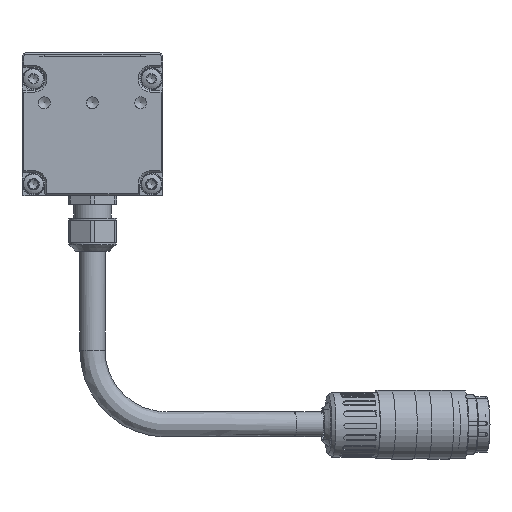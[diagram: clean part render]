
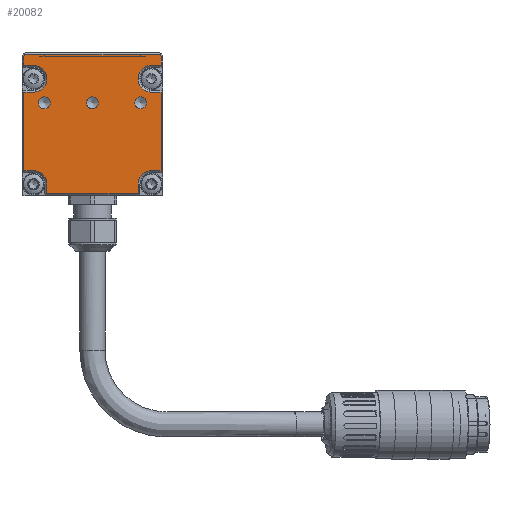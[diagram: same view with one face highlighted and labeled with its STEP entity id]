
A CAD part, left-side view. The second image highlights one B-rep face of the part: STEP entity #20082.
In plain terms, the highlighted planar face has unit normal (-1, 0, 0).
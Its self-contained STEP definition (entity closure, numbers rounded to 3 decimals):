
#880=LINE('',#27913,#1882);
#882=LINE('',#27917,#1884);
#886=LINE('',#27925,#1888);
#889=LINE('',#27931,#1891);
#891=LINE('',#27936,#1893);
#895=LINE('',#27944,#1897);
#897=LINE('',#27948,#1899);
#901=LINE('',#27957,#1903);
#903=LINE('',#27962,#1905);
#906=LINE('',#27970,#1908);
#909=LINE('',#27976,#1911);
#912=LINE('',#27984,#1914);
#916=LINE('',#27992,#1918);
#919=LINE('',#27999,#1921);
#1882=VECTOR('',#23214,1000.);
#1884=VECTOR('',#23218,1000.);
#1888=VECTOR('',#23224,1000.);
#1891=VECTOR('',#23229,1000.);
#1893=VECTOR('',#23235,1000.);
#1897=VECTOR('',#23241,1000.);
#1899=VECTOR('',#23247,1000.);
#1903=VECTOR('',#23257,1000.);
#1905=VECTOR('',#23265,1000.);
#1908=VECTOR('',#23274,1000.);
#1911=VECTOR('',#23283,1000.);
#1914=VECTOR('',#23292,1000.);
#1918=VECTOR('',#23302,1000.);
#1921=VECTOR('',#23311,1000.);
#2682=PLANE('',#21147);
#3923=ORIENTED_EDGE('',*,*,#7674,.T.);
#3924=ORIENTED_EDGE('',*,*,#7675,.T.);
#3925=ORIENTED_EDGE('',*,*,#7676,.T.);
#3926=ORIENTED_EDGE('',*,*,#7648,.T.);
#3927=ORIENTED_EDGE('',*,*,#7645,.T.);
#3928=ORIENTED_EDGE('',*,*,#7639,.T.);
#3929=ORIENTED_EDGE('',*,*,#7656,.T.);
#3930=ORIENTED_EDGE('',*,*,#7654,.T.);
#3931=ORIENTED_EDGE('',*,*,#7652,.T.);
#3932=ORIENTED_EDGE('',*,*,#7630,.T.);
#3933=ORIENTED_EDGE('',*,*,#7663,.T.);
#3934=ORIENTED_EDGE('',*,*,#7661,.T.);
#3935=ORIENTED_EDGE('',*,*,#7659,.T.);
#3936=ORIENTED_EDGE('',*,*,#7628,.T.);
#3937=ORIENTED_EDGE('',*,*,#7673,.F.);
#3938=ORIENTED_EDGE('',*,*,#7643,.T.);
#3939=ORIENTED_EDGE('',*,*,#7672,.F.);
#3940=ORIENTED_EDGE('',*,*,#7637,.T.);
#3941=ORIENTED_EDGE('',*,*,#7671,.T.);
#3942=ORIENTED_EDGE('',*,*,#7669,.T.);
#3943=ORIENTED_EDGE('',*,*,#7667,.T.);
#3944=ORIENTED_EDGE('',*,*,#7634,.T.);
#3945=ORIENTED_EDGE('',*,*,#7650,.T.);
#7628=EDGE_CURVE('',#9566,#9567,#880,.T.);
#7630=EDGE_CURVE('',#9569,#9568,#882,.T.);
#7634=EDGE_CURVE('',#9570,#9571,#886,.T.);
#7637=EDGE_CURVE('',#9572,#9573,#889,.T.);
#7639=EDGE_CURVE('',#9575,#9574,#891,.T.);
#7643=EDGE_CURVE('',#9576,#9577,#895,.T.);
#7645=EDGE_CURVE('',#9578,#9575,#897,.T.);
#7648=EDGE_CURVE('',#9579,#9578,#10697,.T.);
#7650=EDGE_CURVE('',#9571,#9579,#901,.T.);
#7652=EDGE_CURVE('',#9580,#9569,#903,.T.);
#7654=EDGE_CURVE('',#9581,#9580,#10698,.T.);
#7656=EDGE_CURVE('',#9574,#9581,#906,.T.);
#7659=EDGE_CURVE('',#9582,#9566,#909,.T.);
#7661=EDGE_CURVE('',#9583,#9582,#10699,.T.);
#7663=EDGE_CURVE('',#9568,#9583,#912,.T.);
#7667=EDGE_CURVE('',#9584,#9570,#916,.T.);
#7669=EDGE_CURVE('',#9585,#9584,#10700,.T.);
#7671=EDGE_CURVE('',#9573,#9585,#919,.T.);
#7672=EDGE_CURVE('',#9572,#9577,#10701,.T.);
#7673=EDGE_CURVE('',#9576,#9567,#10702,.T.);
#7674=EDGE_CURVE('',#9586,#9586,#10703,.T.);
#7675=EDGE_CURVE('',#9587,#9587,#10704,.T.);
#7676=EDGE_CURVE('',#9588,#9588,#10705,.T.);
#9566=VERTEX_POINT('',#27910);
#9567=VERTEX_POINT('',#27912);
#9568=VERTEX_POINT('',#27916);
#9569=VERTEX_POINT('',#27918);
#9570=VERTEX_POINT('',#27922);
#9571=VERTEX_POINT('',#27924);
#9572=VERTEX_POINT('',#27928);
#9573=VERTEX_POINT('',#27930);
#9574=VERTEX_POINT('',#27935);
#9575=VERTEX_POINT('',#27937);
#9576=VERTEX_POINT('',#27941);
#9577=VERTEX_POINT('',#27943);
#9578=VERTEX_POINT('',#27949);
#9579=VERTEX_POINT('',#27953);
#9580=VERTEX_POINT('',#27963);
#9581=VERTEX_POINT('',#27967);
#9582=VERTEX_POINT('',#27977);
#9583=VERTEX_POINT('',#27981);
#9584=VERTEX_POINT('',#27991);
#9585=VERTEX_POINT('',#27995);
#9586=VERTEX_POINT('',#28007);
#9587=VERTEX_POINT('',#28009);
#9588=VERTEX_POINT('',#28011);
#10697=CIRCLE('',#21122,3.6);
#10698=CIRCLE('',#21128,3.6);
#10699=CIRCLE('',#21134,3.6);
#10700=CIRCLE('',#21140,3.6);
#10701=CIRCLE('',#21144,0.5);
#10702=CIRCLE('',#21146,0.5);
#10703=CIRCLE('',#21148,1.621);
#10704=CIRCLE('',#21149,1.621);
#10705=CIRCLE('',#21150,1.621);
#11388=EDGE_LOOP('',(#3923));
#11389=EDGE_LOOP('',(#3924));
#11390=EDGE_LOOP('',(#3925));
#11391=EDGE_LOOP('',(#3926,#3927,#3928,#3929,#3930,#3931,#3932,#3933,#3934,
#3935,#3936,#3937,#3938,#3939,#3940,#3941,#3942,#3943,#3944,#3945));
#12478=FACE_BOUND('',#11388,.T.);
#12479=FACE_BOUND('',#11389,.T.);
#12480=FACE_BOUND('',#11390,.T.);
#12481=FACE_BOUND('',#11391,.T.);
#20082=ADVANCED_FACE('',(#12478,#12479,#12480,#12481),#2682,.F.);
#21122=AXIS2_PLACEMENT_3D('',#27954,#23252,#23253);
#21128=AXIS2_PLACEMENT_3D('',#27966,#23269,#23270);
#21134=AXIS2_PLACEMENT_3D('',#27980,#23287,#23288);
#21140=AXIS2_PLACEMENT_3D('',#27996,#23306,#23307);
#21144=AXIS2_PLACEMENT_3D('',#28002,#23316,#23317);
#21146=AXIS2_PLACEMENT_3D('',#28004,#23320,#23321);
#21147=AXIS2_PLACEMENT_3D('',#28005,#23322,#23323);
#21148=AXIS2_PLACEMENT_3D('',#28006,#23324,#23325);
#21149=AXIS2_PLACEMENT_3D('',#28008,#23326,#23327);
#21150=AXIS2_PLACEMENT_3D('',#28010,#23328,#23329);
#23214=DIRECTION('',(0.,0.,1.));
#23218=DIRECTION('',(0.,0.,1.));
#23224=DIRECTION('',(0.,0.,-1.));
#23229=DIRECTION('',(0.,0.,-1.));
#23235=DIRECTION('',(0.,-1.,0.));
#23241=DIRECTION('',(0.,1.,0.));
#23247=DIRECTION('',(0.,0.,-1.));
#23252=DIRECTION('',(1.,0.,0.));
#23253=DIRECTION('',(0.,1.,0.));
#23257=DIRECTION('',(0.,-1.,0.));
#23265=DIRECTION('',(0.,-1.,0.));
#23269=DIRECTION('',(1.,0.,0.));
#23270=DIRECTION('',(0.,1.,0.));
#23274=DIRECTION('',(0.,0.,1.));
#23283=DIRECTION('',(0.,-1.,0.));
#23287=DIRECTION('',(1.,0.,0.));
#23288=DIRECTION('',(0.,1.,0.));
#23292=DIRECTION('',(0.,1.,0.));
#23302=DIRECTION('',(0.,1.,0.));
#23306=DIRECTION('',(1.,0.,0.));
#23307=DIRECTION('',(0.,1.,0.));
#23311=DIRECTION('',(0.,-1.,0.));
#23316=DIRECTION('',(1.,0.,0.));
#23317=DIRECTION('',(0.,1.,0.));
#23320=DIRECTION('',(1.,0.,0.));
#23321=DIRECTION('',(0.,1.,0.));
#23322=DIRECTION('',(1.,0.,0.));
#23323=DIRECTION('',(0.,1.,0.));
#23324=DIRECTION('',(1.,0.,0.));
#23325=DIRECTION('',(0.,-1.,0.));
#23326=DIRECTION('',(1.,0.,0.));
#23327=DIRECTION('',(0.,-1.,0.));
#23328=DIRECTION('',(1.,0.,0.));
#23329=DIRECTION('',(0.,-1.,0.));
#27910=CARTESIAN_POINT('',(-914.998,-18.5,35.119));
#27912=CARTESIAN_POINT('',(-914.998,-18.5,37.519));
#27913=CARTESIAN_POINT('',(-914.998,-18.5,0.019));
#27916=CARTESIAN_POINT('',(-914.998,-18.5,27.919));
#27917=CARTESIAN_POINT('',(-914.998,-18.5,0.019));
#27918=CARTESIAN_POINT('',(-914.998,-18.5,6.719));
#27922=CARTESIAN_POINT('',(-914.998,18.5,27.919));
#27924=CARTESIAN_POINT('',(-914.998,18.5,6.719));
#27925=CARTESIAN_POINT('',(-914.998,18.5,0.019));
#27928=CARTESIAN_POINT('',(-914.998,18.5,37.519));
#27930=CARTESIAN_POINT('',(-914.998,18.5,35.119));
#27931=CARTESIAN_POINT('',(-914.998,18.5,0.019));
#27935=CARTESIAN_POINT('',(-914.998,-12.3,0.519));
#27936=CARTESIAN_POINT('',(-914.998,-12.3,0.519));
#27937=CARTESIAN_POINT('',(-914.998,12.3,0.519));
#27941=CARTESIAN_POINT('',(-914.998,-18.,38.019));
#27943=CARTESIAN_POINT('',(-914.998,18.,38.019));
#27944=CARTESIAN_POINT('',(-914.998,-19.,38.019));
#27948=CARTESIAN_POINT('',(-914.998,12.3,0.019));
#27949=CARTESIAN_POINT('',(-914.998,12.3,3.119));
#27953=CARTESIAN_POINT('',(-914.998,15.9,6.719));
#27954=CARTESIAN_POINT('',(-914.998,15.9,3.119));
#27957=CARTESIAN_POINT('',(-914.998,-19.,6.719));
#27962=CARTESIAN_POINT('',(-914.998,-19.,6.719));
#27963=CARTESIAN_POINT('',(-914.998,-15.9,6.719));
#27966=CARTESIAN_POINT('',(-914.998,-15.9,3.119));
#27967=CARTESIAN_POINT('',(-914.998,-12.3,3.119));
#27970=CARTESIAN_POINT('',(-914.998,-12.3,0.019));
#27976=CARTESIAN_POINT('',(-914.998,-19.,35.119));
#27977=CARTESIAN_POINT('',(-914.998,-15.9,35.119));
#27980=CARTESIAN_POINT('',(-914.998,-15.9,31.519));
#27981=CARTESIAN_POINT('',(-914.998,-15.9,27.919));
#27984=CARTESIAN_POINT('',(-914.998,-19.,27.919));
#27991=CARTESIAN_POINT('',(-914.998,15.9,27.919));
#27992=CARTESIAN_POINT('',(-914.998,-19.,27.919));
#27995=CARTESIAN_POINT('',(-914.998,15.9,35.119));
#27996=CARTESIAN_POINT('',(-914.998,15.9,31.519));
#27999=CARTESIAN_POINT('',(-914.998,-19.,35.119));
#28002=CARTESIAN_POINT('',(-914.998,18.,37.519));
#28004=CARTESIAN_POINT('',(-914.998,-18.,37.519));
#28005=CARTESIAN_POINT('',(-914.998,-19.,0.019));
#28006=CARTESIAN_POINT('',(-914.998,13.,25.019));
#28007=CARTESIAN_POINT('',(-914.998,11.379,25.019));
#28008=CARTESIAN_POINT('',(-914.998,0.,25.019));
#28009=CARTESIAN_POINT('',(-914.998,-1.621,25.019));
#28010=CARTESIAN_POINT('',(-914.998,-13.,25.019));
#28011=CARTESIAN_POINT('',(-914.998,-14.621,25.019));
